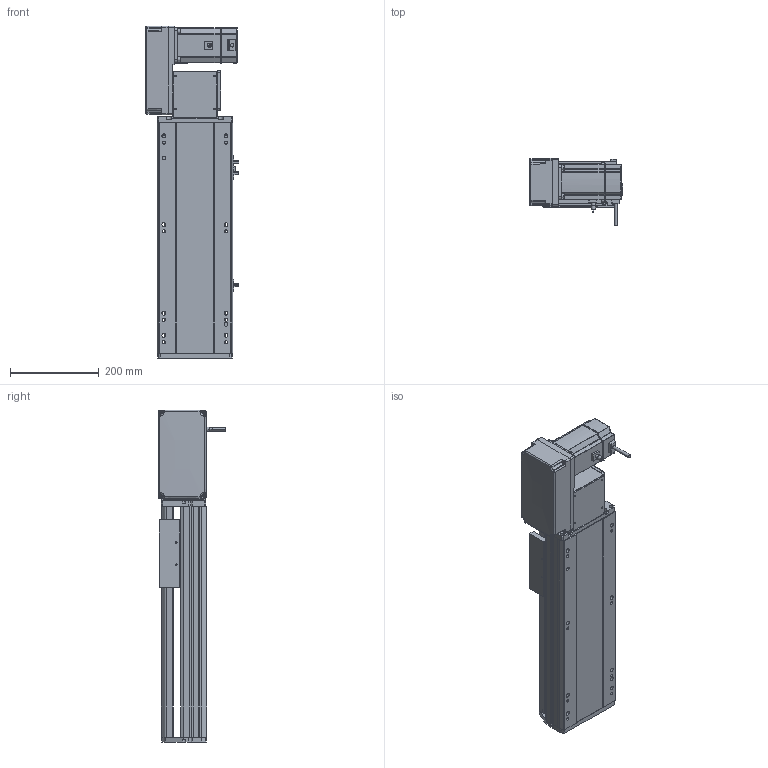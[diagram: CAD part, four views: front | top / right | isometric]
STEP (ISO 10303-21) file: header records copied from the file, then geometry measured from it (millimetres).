
FILE_DESCRIPTION (( 'STEP AP214' ), '1' );
FILE_NAME ('RTB17S-XX-250-L-M75-C4.STEP', '2025-12-12T00:07:37', ( '' ), ( '' ), 'SwSTEP 2.0', 'SolidWorks 2018', '' );
FILE_SCHEMA (( 'AUTOMOTIVE_DESIGN' ));
Length unit declared in the file: millimetre
Products named in the file (15): RTB22S-GY-017P^RTB17S-L-々湍釱蚾饜-750W_RTB17S-XX-XX-L-M75-C4; RTH13-BL-012覜茼え俋离^RTB17S-賑釱_RTB17S-XX-XX-L-M75-C4; RTB17-R-011菁釱^RTB17S-XX-XX-L-M75-C4; RTB17S-L-004-賑釱^RTB17S-賑釱_RTB17S-XX-XX-L-M75-C4; RTB17S-L-々湍釱蚾饜-750W^RTB17S-XX-XX-L-M75-C4; RTB22S-GY-008-M75--萇儂啣^RTB17S-L-々湍釱蚾饜-750W_RTB17S-XX-XX-L-M75-C4; RTB17S-L-007奻裔^RTB17S-XX-XX-L-M75-C4; RTB17S-賑釱^RTB17S-XX-XX-L-M75-C4; RMP17S-L-014-T20-P75--々湍釱^RTB17S-L-々湍釱蚾饜-750W_RTB17S-XX-XX-L-M75-C4; RTB17S-L-001-耜醱啣^RTB17S-XX-XX-L-M75-C4; RTB22S-GY-018P^RTB17S-L-々湍釱蚾饜-750W_RTB17S-XX-XX-L-M75-C4; RTB22S-GY-005P^RTB17S-L-々湍釱蚾饜-750W_RTB17S-XX-XX-L-M75-C4; EE672^RTB17S-XX-XX-L-M75-C4; RTB17S-XX-250-L-M75-C4; 750W萇儂^RTB17S-XX-XX-L-M75-C4
Assembly tree (17 placements, depth 3):
  RTB17S-XX-250-L-M75-C4
    RTB17-R-011菁釱^RTB17S-XX-XX-L-M75-C4
    EE672^RTB17S-XX-XX-L-M75-C4  x3
    RTB17S-L-001-耜醱啣^RTB17S-XX-XX-L-M75-C4
    RTB17S-賑釱^RTB17S-XX-XX-L-M75-C4
      RTB17S-L-004-賑釱^RTB17S-賑釱_RTB17S-XX-XX-L-M75-C4
      RTH13-BL-012覜茼え俋离^RTB17S-賑釱_RTB17S-XX-XX-L-M75-C4
    RTB17S-L-007奻裔^RTB17S-XX-XX-L-M75-C4
    750W萇儂^RTB17S-XX-XX-L-M75-C4
    RTB17S-L-々湍釱蚾饜-750W^RTB17S-XX-XX-L-M75-C4
      RMP17S-L-014-T20-P75--々湍釱^RTB17S-L-々湍釱蚾饜-750W_RTB17S-XX-XX-L-M75-C4
      RTB22S-GY-005P^RTB17S-L-々湍釱蚾饜-750W_RTB17S-XX-XX-L-M75-C4
      RTB22S-GY-017P^RTB17S-L-々湍釱蚾饜-750W_RTB17S-XX-XX-L-M75-C4  x2
      RTB22S-GY-008-M75--萇儂啣^RTB17S-L-々湍釱蚾饜-750W_RTB17S-XX-XX-L-M75-C4
      RTB22S-GY-018P^RTB17S-L-々湍釱蚾饜-750W_RTB17S-XX-XX-L-M75-C4
Bounding box: 210.4 x 152.7 x 749 mm (x, y, z)
Volume: 7507527.7 mm3; surface area: 1151470.8 mm2
Topology: 17 solids, 17 shells, 2041 faces, 5620 edges, 3626 vertices
Faces by surface type: plane 964, cylinder 661, bspline 294, cone 110, sphere 8, torus 4
Entity records: 55798 total; most frequent: CARTESIAN_POINT 16284, ORIENTED_EDGE 8084, DIRECTION 7592, EDGE_CURVE 4042, AXIS2_PLACEMENT_3D 2646, VERTEX_POINT 2630, VECTOR 2300, LINE 2300
